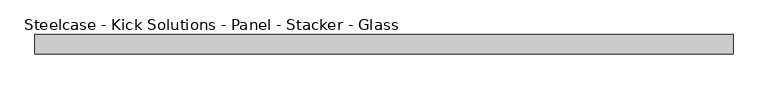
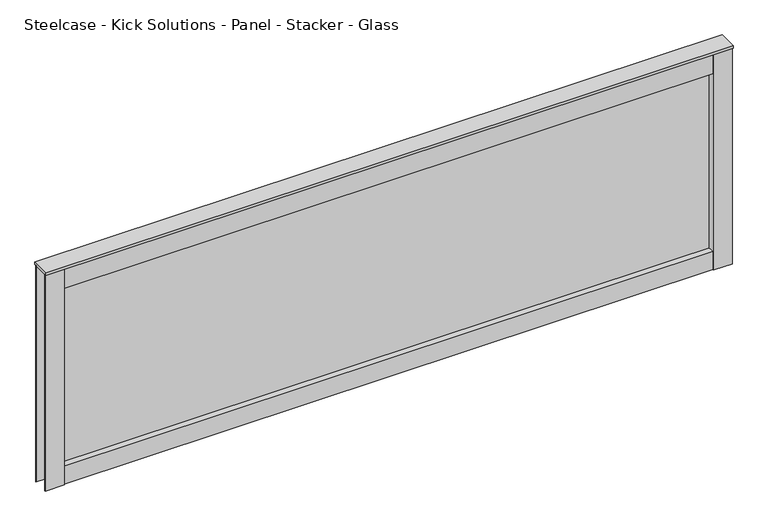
"""IFC4 building model written with IfcOpenShell, lengths in millimetres: furniture geometry, Steelcase - Kick Solutions - Panel - Stacker - Glass : 24H x 72W."""

from ifc_helpers import new_model, si_unit, frame, origin, place, context, project, spatial, polyline, outline, extrude, source, transform, mapped, element, save


def steelcase_kick_solutions_panel_stacker_glass_7bde619a(model_context):
    return source(origin(), model_context, "Body", "SweptSolid", [
        extrude(outline(polyline([(1778.0006661, -5.08), (1778.0006661, -45.7200015), (50.8006646, -45.7200015), (50.8006646, -5.08), (1778.0006661, -5.08)])), frame((0.0, 0.0, 1066.8), z_axis=(0.0, 0.0, 1.0), x_axis=(1.0, 0.0, 0.0)), (0.0, 0.0, 1.0), 50.6830951),
        extrude(outline(polyline([(1778.0006661, -5.08), (1778.0006661, -45.7200015), (50.8006646, -45.7200015), (50.8006646, -5.08), (1778.0006661, -5.08)])), frame((0.0, 0.0, 1619.25), z_axis=(0.0, 0.0, 1.0), x_axis=(1.0, 0.0, 0.0)), (0.0, 0.0, 1.0), 57.15),
        extrude(outline(polyline([(50.8006646, -3.1743148), (50.8006646, -47.6243142), (0.0, -47.6243142), (0.0, -45.7200015), (47.7526646, -45.7200015), (47.7526646, -5.08), (0.0, -5.08), (0.0, -3.1743148), (50.8006646, -3.1743148)])), frame((0.0, 0.0, 1066.8), z_axis=(0.0, 0.0, 1.0), x_axis=(1.0, 0.0, 0.0)), (0.0, 0.0, 1.0), 609.6),
        extrude(outline(polyline([(1778.0006661, -3.1743148), (1828.8, -3.1743148), (1828.8, -5.08), (1781.0486661, -5.08), (1781.0486661, -45.7200015), (1828.8, -45.7200015), (1828.8, -47.6243142), (1778.0006661, -47.6243142), (1778.0006661, -3.1743148)])), frame((0.0, 0.0, 1066.8), z_axis=(0.0, 0.0, 1.0), x_axis=(1.0, 0.0, 0.0)), (0.0, 0.0, 1.0), 609.6),
        extrude(outline(polyline([(1778.0006661, -28.422537), (50.8006646, -28.422537), (50.8006646, -25.4), (1778.0006661, -25.4), (1778.0006661, -28.422537)])), frame((0.0, 0.0, 1117.4830951), z_axis=(0.0, 0.0, 1.0), x_axis=(1.0, 0.0, 0.0)), (0.0, 0.0, 1.0), 501.7669049),
        extrude(outline(polyline([(1828.8, 0.0), (1828.8, -50.8000015), (0.0, -50.8000015), (0.0, 0.0), (1828.8, 0.0)])), frame((0.0, 0.0, 1676.4), z_axis=(0.0, 0.0, 1.0), x_axis=(1.0, 0.0, 0.0)), (0.0, 0.0, 1.0), 6.35),
    ])


if __name__ == "__main__":
    model = new_model("IFC4")
    model_context = context("Model", 3, world=origin())
    ifc_project = project(units=[si_unit("LENGTHUNIT", "METRE", prefix="MILLI")], contexts=[model_context])
    site = spatial("IfcSite", under=ifc_project)
    building = spatial("IfcBuilding", under=site)
    placement = place(None, origin())
    steelcase_kick_solutions_panel_stacker_glass_shape = steelcase_kick_solutions_panel_stacker_glass_7bde619a(model_context)
    element("IfcFurniture", 1, ObjectType="Steelcase - Kick Solutions - Panel - Stacker - Glass : 24H x 72W", at=placement, inside=building, context=model_context, shape_type="MappedRepresentation", body=[
        mapped(steelcase_kick_solutions_panel_stacker_glass_shape, transform((0.0, 0.0, 0.0), x_axis=(1.0, 0.0, 0.0), y_axis=(0.0, 1.0, 0.0), z_axis=(0.0, 0.0, 1.0))),
    ])
    save(model, "model.ifc")
